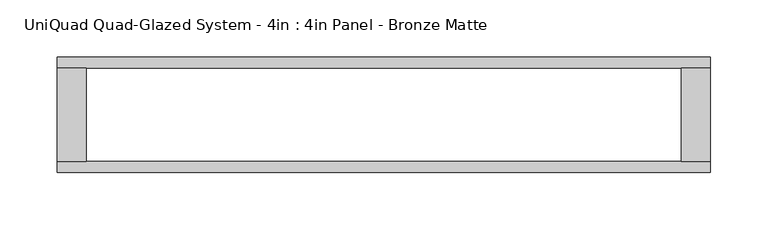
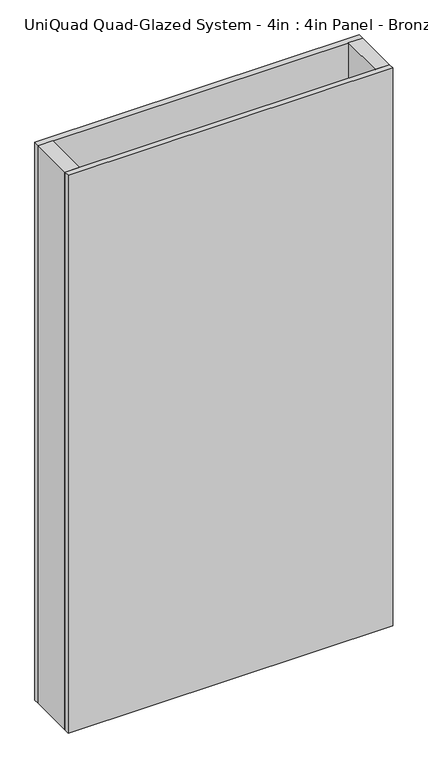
"""IFC4 building model written with IfcOpenShell, lengths in millimetres: plate geometry, UniQuad Quad-Glazed System - 4in : 4in Panel - Bronze Matte."""

from ifc_helpers import new_model, si_unit, origin, origin_with_axes, place, context, project, spatial, polyline, outline, extrude, source, transform, mapped, element, save


def uniquad_quad_glazed_system_4in_4in_panel_bronze_matte_92f861ea(model_context):
    return source(origin(), model_context, "Body", "SweptSolid", [
        extrude(outline(polyline([(-286.6369207, 40.7924), (-261.2369207, 40.7924), (-261.2369207, -40.7924), (-286.6369207, -40.7924), (-286.6369207, 40.7924)])), origin_with_axes(), (0.0, 0.0, 1.0), 1041.4),
        extrude(outline(polyline([(286.6369207, 40.7924), (286.6369207, -40.7924), (261.2369207, -40.7924), (261.2369207, 40.7924), (286.6369207, 40.7924)])), origin_with_axes(), (0.0, 0.0, 1.0), 1041.4),
        extrude(outline(polyline([(286.6369207, -40.7924), (286.6369207, -50.8), (-286.6369207, -50.8), (-286.6369207, -40.7924), (286.6369207, -40.7924)])), origin_with_axes(), (0.0, 0.0, 1.0), 1041.4),
        extrude(outline(polyline([(286.6369207, 50.8), (286.6369207, 40.7924), (-286.6369207, 40.7924), (-286.6369207, 50.8), (286.6369207, 50.8)])), origin_with_axes(), (0.0, 0.0, 1.0), 1041.4),
    ])


if __name__ == "__main__":
    model = new_model("IFC4")
    model_context = context("Model", 3, world=origin())
    ifc_project = project(units=[si_unit("LENGTHUNIT", "METRE", prefix="MILLI")], contexts=[model_context])
    site = spatial("IfcSite", under=ifc_project)
    building = spatial("IfcBuilding", under=site)
    placement = place(None, origin())
    uniquad_quad_glazed_system_4in_4in_panel_bronze_matte_shape = uniquad_quad_glazed_system_4in_4in_panel_bronze_matte_92f861ea(model_context)
    element("IfcPlate", 1, ObjectType="UniQuad Quad-Glazed System - 4in : 4in Panel - Bronze Matte", at=placement, inside=building, context=model_context, shape_type="MappedRepresentation", body=[
        mapped(uniquad_quad_glazed_system_4in_4in_panel_bronze_matte_shape, transform((0.0, 0.0, 0.0), x_axis=(1.0, 0.0, 0.0), y_axis=(0.0, 1.0, 0.0), z_axis=(0.0, 0.0, 1.0))),
    ])
    save(model, "model.ifc")
